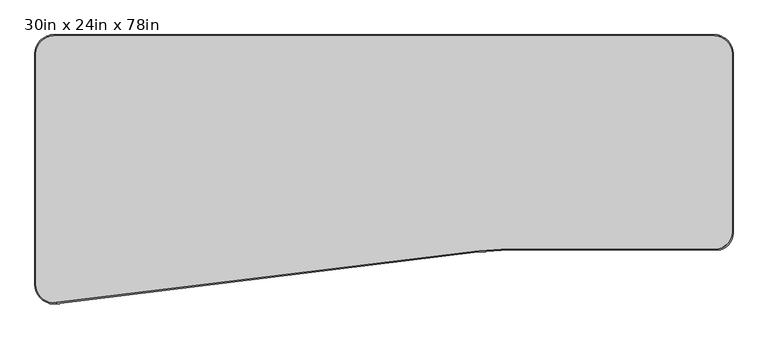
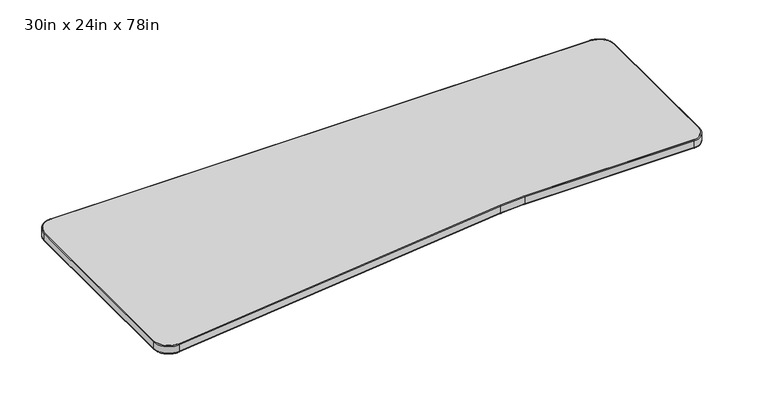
"""IFC4 building model written with IfcOpenShell, lengths in millimetres: furniture geometry, Steelcase - Answer Solution - Universal Table - Transition - Left : 30in x 24in x 78in."""

from ifc_helpers import new_model, si_unit, point, frame, frame_2d, origin, place, context, project, spatial, polyline, circle_curve, ellipse_curve, trimmed, segment, composite_curve, outline, extrude, source, transform, mapped, element, save
from ifc_brep_helpers import plane_surface, cylinder_surface, revolved_surface, advanced_brep


def furniture_30in_x_24in_x_78in_4ae13c03(model_context):
    return source(origin(), model_context, "Body", "SolidModel", [
        extrude(outline(composite_curve([segment(polyline([(53.8479244, -3.0479999), (1921.0019516, -3.0479999)]), True, "CONTINUOUS"), segment(trimmed(circle_curve(frame_2d((1921.0019516, -53.8479999)), 50.8), [point((1921.0019516, -3.0479999))], [point((1971.8019516, -53.8479999))], False, "CARTESIAN"), True, "CONTINUOUS"), segment(polyline([(1971.8019516, -53.8479999), (1971.8019516, -558.6676965)]), True, "CONTINUOUS"), segment(trimmed(circle_curve(frame_2d((1923.9176452, -558.6676965)), 47.8843065), [point((1971.8019516, -558.6676965))], [point((1923.9176452, -606.5520029))], False, "CARTESIAN"), True, "CONTINUOUS"), segment(polyline([(1923.9176452, -606.5520029), (1339.5747338, -606.5520029)]), True, "CONTINUOUS"), segment(trimmed(circle_curve(frame_2d((1339.5747338, -1293.7704002)), 687.2183973), [point((1339.5747338, -606.5520029))], [point((1256.0043966, -611.6522841))], True, "CARTESIAN"), True, "CONTINUOUS"), segment(polyline([(1256.0043966, -611.6522841), (60.025543, -758.1787488)]), True, "CONTINUOUS"), segment(trimmed(circle_curve(frame_2d((53.8479244, -707.7557677)), 50.8), [point((60.025543, -758.1787488))], [point((3.0479244, -707.7557677))], False, "CARTESIAN"), True, "CONTINUOUS"), segment(polyline([(3.0479244, -707.7557677), (3.0479244, -53.8479999)]), True, "CONTINUOUS"), segment(trimmed(circle_curve(frame_2d((53.8479244, -53.8479999)), 50.8), [point((3.0479244, -53.8479999))], [point((53.8479244, -3.0479999))], False, "CARTESIAN"), True, "CONTINUOUS")], self_intersect=False)), frame((0.0, 0.0, 668.274), z_axis=(0.0, 0.0, 1.0), x_axis=(1.0, 0.0, 0.0)), (0.0, 0.0, 1.0), 30.0481659),
        advanced_brep(
        [(-7.55e-05, -53.8479999, 671.3219999), (53.8479244, 0.0, 671.3219999), (53.8479244, -3.0479999, 668.274), (3.0479244, -53.8479999, 668.274), (-7.55e-05, -53.8479999, 695.274166), (53.8479244, 0.0, 695.274166), (3.0479244, -53.8479999, 698.3221659), (53.8479244, -3.0479999, 698.3221659), (3.0479244, -707.7557677, 668.274), (-7.55e-05, -707.7557677, 671.3219999), (-7.55e-05, -707.7557677, 695.274166), (3.0479244, -707.7557677, 698.3221659), (60.3962001, -761.2041276, 671.3219999), (60.025543, -758.1787488, 668.274), (60.3962001, -761.2041276, 695.274166), (60.025543, -758.1787488, 698.3221659), (1254.0804802, -611.8879945, 668.274), (1254.4511373, -614.9133733, 671.3219999), (1254.4511373, -614.9133733, 695.274166), (1254.0804802, -611.8879945, 698.3221659), (1341.5130356, -609.6000028, 671.3219999), (1341.5130356, -606.5520029, 668.274), (1341.5130356, -609.6000028, 695.274166), (1341.5130356, -606.5520029, 698.3221659), (1927.3519516, -606.5520029, 668.274), (1927.3519516, -609.6000028, 671.3219999), (1927.3519516, -609.6000028, 695.274166), (1927.3519516, -606.5520029, 698.3221659), (1974.8499516, -562.1020029, 671.3219999), (1971.8019516, -562.1020029, 668.274), (1974.8499516, -562.1020029, 695.274166), (1971.8019516, -562.1020029, 698.3221659), (1971.8019516, -53.8479999, 668.274), (1974.8499516, -53.8479999, 671.3219999), (1974.8499516, -53.8479999, 695.274166), (1971.8019516, -53.8479999, 698.3221659), (1921.0019516, 0.0, 671.3219999), (1921.0019516, -3.0479999, 668.274), (1921.0019516, 0.0, 695.274166), (1921.0019516, -3.0479999, 698.3221659)],
        [
            (0, 1, circle_curve(frame((53.8479244, -53.8479999, 671.3219999), z_axis=(0.0, 0.0, -1.0), x_axis=(0.0, 1.0, 0.0)), 53.8479999)),
            (1, 2, circle_curve(frame((53.8479244, -3.0479999, 671.3219999), z_axis=(-1.0, 0.0, 0.0), x_axis=(0.0, -1.0, 0.0)), 3.0479999)),
            (2, 3, circle_curve(frame((53.8479244, -53.8479999, 668.274), z_axis=(0.0, 0.0, 1.0), x_axis=(0.0, 1.0, 0.0)), 50.8)),
            (3, 0, circle_curve(frame((3.0479244, -53.8479999, 671.3219999), z_axis=(0.0, 1.0, 0.0), x_axis=(1.0, 0.0, 0.0)), 3.0479999)),
            (4, 5, circle_curve(frame((53.8479244, -53.8479999, 695.274166), z_axis=(0.0, 0.0, -1.0), x_axis=(0.0, 1.0, 0.0)), 53.8479999)),
            (5, 1),
            (0, 4),
            (6, 7, circle_curve(frame((53.8479244, -53.8479999, 698.3221659), z_axis=(0.0, 0.0, -1.0), x_axis=(0.0, 1.0, 0.0)), 50.8)),
            (7, 5, circle_curve(frame((53.8479244, -3.0479999, 695.274166), z_axis=(-1.0, 0.0, 0.0), x_axis=(0.0, -1.0, 0.0)), 3.0479999)),
            (4, 6, circle_curve(frame((3.0479244, -53.8479999, 695.274166), z_axis=(0.0, 1.0, 0.0), x_axis=(1.0, 0.0, 0.0)), 3.0479999)),
            (2, 7),
            (6, 3),
            (3, 8),
            (8, 9, circle_curve(frame((3.0479244, -707.7557677, 671.3219999), z_axis=(0.0, 1.0, 0.0), x_axis=(1.0, 0.0, 0.0)), 3.0479999)),
            (9, 0),
            (9, 10),
            (10, 4),
            (10, 11, circle_curve(frame((3.0479244, -707.7557677, 695.274166), z_axis=(0.0, 1.0, 0.0), x_axis=(1.0, 0.0, 0.0)), 3.0479999)),
            (11, 6),
            (11, 8),
            (12, 9, circle_curve(frame((53.8479244, -707.7557677, 671.3219999), z_axis=(0.0, 0.0, -1.0), x_axis=(-1.0, 0.0, 0.0)), 53.8479999)),
            (8, 13, circle_curve(frame((53.8479244, -707.7557677, 668.274), z_axis=(0.0, 0.0, 1.0), x_axis=(-1.0, 0.0, 0.0)), 50.8)),
            (13, 12, circle_curve(frame((60.025543, -758.1787488, 671.3219999), z_axis=(-0.9925783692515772, -0.12160666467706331, 0.0), x_axis=(-0.12160666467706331, 0.9925783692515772, 0.0)), 3.0479999)),
            (14, 10, circle_curve(frame((53.8479244, -707.7557677, 695.274166), z_axis=(0.0, 0.0, -1.0), x_axis=(-1.0, 0.0, 0.0)), 53.8479999)),
            (12, 14),
            (15, 11, circle_curve(frame((53.8479244, -707.7557677, 698.3221659), z_axis=(0.0, 0.0, -1.0), x_axis=(-1.0, 0.0, 0.0)), 50.8)),
            (14, 15, circle_curve(frame((60.025543, -758.1787488, 695.274166), z_axis=(-0.9925783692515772, -0.12160666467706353, 0.0), x_axis=(-0.12160666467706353, 0.9925783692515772, 0.0)), 3.0479999)),
            (15, 13),
            (13, 16),
            (16, 17, circle_curve(frame((1254.0804802, -611.8879945, 671.3219999), z_axis=(-0.9925783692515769, -0.1216066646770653, 0.0), x_axis=(-0.1216066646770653, 0.9925783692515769, 0.0)), 3.0479999)),
            (17, 12),
            (17, 18),
            (18, 14),
            (18, 19, circle_curve(frame((1254.0804802, -611.8879945, 695.274166), z_axis=(-0.9925783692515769, -0.1216066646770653, 0.0), x_axis=(-0.1216066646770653, 0.9925783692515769, 0.0)), 3.0479999)),
            (19, 15),
            (19, 16),
            (20, 17, circle_curve(frame((1341.5130356, -1325.5303219, 671.3219999), z_axis=(0.0, 0.0, 1.0), x_axis=(-0.12160666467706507, 0.9925783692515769, 0.0)), 715.9303191)),
            (16, 21, circle_curve(frame((1341.5130356, -1325.5303219, 668.274), z_axis=(0.0, 0.0, -1.0), x_axis=(-0.12160666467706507, 0.9925783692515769, 0.0)), 718.978319)),
            (21, 20, circle_curve(frame((1341.5130356, -606.5520029, 671.3219999), z_axis=(-0.9999999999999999, 0.0, 0.0), x_axis=(0.0, 0.9999999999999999, 0.0)), 3.0479999)),
            (22, 18, circle_curve(frame((1341.5130356, -1325.5303219, 695.274166), z_axis=(0.0, 0.0, 1.0), x_axis=(-0.12160666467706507, 0.9925783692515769, 0.0)), 715.9303191)),
            (20, 22),
            (23, 19, circle_curve(frame((1341.5130356, -1325.5303219, 698.3221659), z_axis=(0.0, 0.0, 1.0), x_axis=(-0.12160666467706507, 0.9925783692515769, 0.0)), 718.978319)),
            (22, 23, circle_curve(frame((1341.5130356, -606.5520029, 695.274166), z_axis=(-0.9999999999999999, 0.0, 0.0), x_axis=(0.0, 0.9999999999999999, 0.0)), 3.0479999)),
            (23, 21),
            (21, 24),
            (24, 25, circle_curve(frame((1927.3519516, -606.5520029, 671.3219999), z_axis=(-1.0, 0.0, 0.0), x_axis=(0.0, 1.0, 0.0)), 3.0479999)),
            (25, 20),
            (25, 26),
            (26, 22),
            (26, 27, circle_curve(frame((1927.3519516, -606.5520029, 695.274166), z_axis=(-1.0, 0.0, 0.0), x_axis=(0.0, 1.0, 0.0)), 3.0479999)),
            (27, 23),
            (27, 24),
            (28, 25, circle_curve(frame((1927.3519516, -562.1020029, 671.3219999), z_axis=(0.0, 0.0, -1.0), x_axis=(0.0, -1.0, 0.0)), 47.4979999)),
            (24, 29, circle_curve(frame((1927.3519516, -562.1020029, 668.274), z_axis=(0.0, 0.0, 1.0), x_axis=(0.0, -1.0, 0.0)), 44.45)),
            (29, 28, circle_curve(frame((1971.8019516, -562.1020029, 671.3219999), z_axis=(0.0, -1.0, 0.0), x_axis=(-1.0, 0.0, 0.0)), 3.0479999)),
            (30, 26, circle_curve(frame((1927.3519516, -562.1020029, 695.274166), z_axis=(0.0, 0.0, -1.0), x_axis=(0.0, -1.0, 0.0)), 47.4979999)),
            (28, 30),
            (31, 27, circle_curve(frame((1927.3519516, -562.1020029, 698.3221659), z_axis=(0.0, 0.0, -1.0), x_axis=(0.0, -1.0, 0.0)), 44.45)),
            (30, 31, circle_curve(frame((1971.8019516, -562.1020029, 695.274166), z_axis=(0.0, -1.0, 0.0), x_axis=(-1.0, 0.0, 0.0)), 3.0479999)),
            (31, 29),
            (29, 32),
            (32, 33, circle_curve(frame((1971.8019516, -53.8479999, 671.3219999), z_axis=(0.0, -1.0, 0.0), x_axis=(-1.0, 0.0, 0.0)), 3.0479999)),
            (33, 28),
            (33, 34),
            (34, 30),
            (34, 35, circle_curve(frame((1971.8019516, -53.8479999, 695.274166), z_axis=(0.0, -1.0, 0.0), x_axis=(-1.0, 0.0, 0.0)), 3.0479999)),
            (35, 31),
            (35, 32),
            (36, 33, circle_curve(frame((1921.0019516, -53.8479999, 671.3219999), z_axis=(0.0, 0.0, -1.0), x_axis=(1.0, 0.0, 0.0)), 53.8479999)),
            (32, 37, circle_curve(frame((1921.0019516, -53.8479999, 668.274), z_axis=(0.0, 0.0, 1.0), x_axis=(1.0, 0.0, 0.0)), 50.8)),
            (37, 36, circle_curve(frame((1921.0019516, -3.0479999, 671.3219999), z_axis=(1.0, 0.0, 0.0), x_axis=(0.0, -1.0, 0.0)), 3.0479999)),
            (38, 34, circle_curve(frame((1921.0019516, -53.8479999, 695.274166), z_axis=(0.0, 0.0, -1.0), x_axis=(1.0, 0.0, 0.0)), 53.8479999)),
            (36, 38),
            (39, 35, circle_curve(frame((1921.0019516, -53.8479999, 698.3221659), z_axis=(0.0, 0.0, -1.0), x_axis=(1.0, 0.0, 0.0)), 50.8)),
            (38, 39, circle_curve(frame((1921.0019516, -3.0479999, 695.274166), z_axis=(1.0, 0.0, 0.0), x_axis=(0.0, -1.0, 0.0)), 3.0479999)),
            (39, 37),
            (37, 2),
            (1, 36),
            (5, 38),
            (7, 39),
        ],
        [
            revolved_surface(trimmed(ellipse_curve(frame((53.8479244, -3.0479999, 671.3219999), z_axis=(1.0, 0.0, 0.0), x_axis=(0.0, -1.0, 0.0)), 3.0479999, 3.0479999), [point((53.8479244, -3.0479999, 668.274))], [point((53.8479244, 0.0, 671.3219999))], True, "CARTESIAN"), (53.8479244, -53.8479999, 0.0), (0.0, 0.0, 1.0)),
            cylinder_surface(frame((53.8479244, -53.8479999, 0.0), z_axis=(0.0, 0.0, 1.0), x_axis=(0.0, 1.0, 0.0)), 53.8479999),
            revolved_surface(trimmed(ellipse_curve(frame((53.8479244, -3.0479999, 695.274166), z_axis=(1.0, 0.0, 0.0), x_axis=(0.0, -1.0, 0.0)), 3.0479999, 3.0479999), [point((53.8479244, 0.0, 695.274166))], [point((53.8479244, -3.0479999, 698.3221659))], True, "CARTESIAN"), (53.8479244, -53.8479999, 0.0), (0.0, 0.0, 1.0)),
            revolved_surface(polyline([(53.8479244, -3.0479999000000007, 698.3221659), (53.8479244, -3.0479999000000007, 668.274)]), (53.8479244, -53.8479999, 0.0), (0.0, 0.0, 1.0)),
            cylinder_surface(frame((3.0479244, -53.8479999, 671.3219999), z_axis=(0.0, 1.0, 0.0), x_axis=(1.0, 0.0, 0.0)), 3.0479999),
            plane_surface(frame((-7.55e-05, -53.8479999, 671.3219999), z_axis=(-1.0, 0.0, 0.0), x_axis=(0.0, -1.0, 0.0))),
            cylinder_surface(frame((3.0479244, -53.8479999, 695.274166), z_axis=(0.0, 1.0, 0.0), x_axis=(1.0, 0.0, 0.0)), 3.0479999),
            plane_surface(frame((3.0479244, -53.8479999, 698.3221659), z_axis=(1.0, 0.0, 0.0), x_axis=(0.0, -1.0, 0.0))),
            revolved_surface(trimmed(ellipse_curve(frame((3.0479244, -707.7557677, 671.3219999), z_axis=(0.0, 1.0, 0.0), x_axis=(1.0, 0.0, 0.0)), 3.0479999, 3.0479999), [point((3.0479244, -707.7557677, 668.274))], [point((-7.55e-05, -707.7557677, 671.3219999))], True, "CARTESIAN"), (53.8479244, -707.7557677, 0.0), (0.0, 0.0, 1.0)),
            cylinder_surface(frame((53.8479244, -707.7557677, 0.0), z_axis=(0.0, 0.0, 1.0), x_axis=(-1.0, 0.0, 0.0)), 53.8479999),
            revolved_surface(trimmed(ellipse_curve(frame((3.0479244, -707.7557677, 695.274166), z_axis=(0.0, 1.0, 0.0), x_axis=(1.0, 0.0, 0.0)), 3.0479999, 3.0479999), [point((-7.55e-05, -707.7557677, 695.274166))], [point((3.0479244, -707.7557677, 698.3221659))], True, "CARTESIAN"), (53.8479244, -707.7557677, 0.0), (0.0, 0.0, 1.0)),
            revolved_surface(polyline([(3.0479243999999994, -707.7557677, 698.3221659), (3.0479243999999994, -707.7557677, 668.274)]), (53.8479244, -707.7557677, 0.0), (0.0, 0.0, 1.0)),
            cylinder_surface(frame((60.025543, -758.1787488, 671.3219999), z_axis=(-0.9925783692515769, -0.1216066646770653, 0.0), x_axis=(-0.1216066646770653, 0.9925783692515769, 0.0)), 3.0479999),
            plane_surface(frame((60.3962001, -761.2041276, 671.3219999), z_axis=(0.12160666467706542, -0.9925783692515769, 0.0), x_axis=(0.9925783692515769, 0.12160666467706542, 0.0))),
            cylinder_surface(frame((60.025543, -758.1787488, 695.274166), z_axis=(-0.9925783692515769, -0.1216066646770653, 0.0), x_axis=(-0.1216066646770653, 0.9925783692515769, 0.0)), 3.0479999),
            plane_surface(frame((60.025543, -758.1787488, 698.3221659), z_axis=(-0.12160666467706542, 0.9925783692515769, 0.0), x_axis=(0.9925783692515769, 0.12160666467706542, 0.0))),
            revolved_surface(trimmed(ellipse_curve(frame((1254.0804802, -611.8879945, 671.3219999), z_axis=(-0.9925783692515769, -0.12160666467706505, 0.0), x_axis=(-0.12160666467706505, 0.9925783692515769, 0.0)), 3.0479999, 3.0479999), [point((1254.0804802, -611.8879945, 668.274))], [point((1254.4511373, -614.9133733, 671.3219999))], True, "CARTESIAN"), (1341.5130356, -1325.5303219, 0.0), (0.0, 0.0, -1.0)),
            revolved_surface(polyline([(1254.451137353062, -614.9133732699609, 671.3219999), (1254.451137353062, -614.9133732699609, 695.274166)]), (1341.5130356, -1325.5303219, 0.0), (0.0, 0.0, -1.0)),
            revolved_surface(trimmed(ellipse_curve(frame((1254.0804802, -611.8879945, 695.274166), z_axis=(-0.9925783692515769, -0.12160666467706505, 0.0), x_axis=(-0.12160666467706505, 0.9925783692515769, 0.0)), 3.0479999, 3.0479999), [point((1254.4511373, -614.9133733, 695.274166))], [point((1254.0804802, -611.8879945, 698.3221659))], True, "CARTESIAN"), (1341.5130356, -1325.5303219, 0.0), (0.0, 0.0, -1.0)),
            cylinder_surface(frame((1341.5130356, -1325.5303219, 0.0), z_axis=(0.0, 0.0, -1.0), x_axis=(-0.12160666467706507, 0.9925783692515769, 0.0)), 718.978319),
            cylinder_surface(frame((1341.5130356, -606.5520029, 671.3219999), z_axis=(-1.0, 0.0, 0.0), x_axis=(0.0, 1.0, 0.0)), 3.0479999),
            plane_surface(frame((1341.5130356, -609.6000028, 671.3219999), z_axis=(0.0, -1.0, 0.0), x_axis=(1.0, 0.0, 0.0))),
            cylinder_surface(frame((1341.5130356, -606.5520029, 695.274166), z_axis=(-1.0, 0.0, 0.0), x_axis=(0.0, 1.0, 0.0)), 3.0479999),
            plane_surface(frame((1341.5130356, -606.5520029, 698.3221659), z_axis=(0.0, 1.0, 0.0), x_axis=(1.0, 0.0, 0.0))),
            revolved_surface(trimmed(ellipse_curve(frame((1927.3519516, -606.5520029, 671.3219999), z_axis=(-1.0, 0.0, 0.0), x_axis=(0.0, 1.0, 0.0)), 3.0479999, 3.0479999), [point((1927.3519516, -606.5520029, 668.274))], [point((1927.3519516, -609.6000028, 671.3219999))], True, "CARTESIAN"), (1927.3519516, -562.1020029, 0.0), (0.0, 0.0, 1.0)),
            cylinder_surface(frame((1927.3519516, -562.1020029, 0.0), z_axis=(0.0, 0.0, 1.0), x_axis=(0.0, -1.0, 0.0)), 47.4979999),
            revolved_surface(trimmed(ellipse_curve(frame((1927.3519516, -606.5520029, 695.274166), z_axis=(-1.0, 0.0, 0.0), x_axis=(0.0, 1.0, 0.0)), 3.0479999, 3.0479999), [point((1927.3519516, -609.6000028, 695.274166))], [point((1927.3519516, -606.5520029, 698.3221659))], True, "CARTESIAN"), (1927.3519516, -562.1020029, 0.0), (0.0, 0.0, 1.0)),
            revolved_surface(polyline([(1927.3519516, -606.5520029, 698.3221659), (1927.3519516, -606.5520029, 668.274)]), (1927.3519516, -562.1020029, 0.0), (0.0, 0.0, 1.0)),
            cylinder_surface(frame((1971.8019516, -562.1020029, 671.3219999), z_axis=(0.0, -1.0, 0.0), x_axis=(-1.0, 0.0, 0.0)), 3.0479999),
            plane_surface(frame((1974.8499516, -562.1020029, 671.3219999), z_axis=(1.0, 0.0, 0.0), x_axis=(0.0, 1.0, 0.0))),
            cylinder_surface(frame((1971.8019516, -562.1020029, 695.274166), z_axis=(0.0, -1.0, 0.0), x_axis=(-1.0, 0.0, 0.0)), 3.0479999),
            plane_surface(frame((1971.8019516, -562.1020029, 698.3221659), z_axis=(-1.0, 0.0, 0.0), x_axis=(0.0, 1.0, 0.0))),
            revolved_surface(trimmed(ellipse_curve(frame((1971.8019516, -53.8479999, 671.3219999), z_axis=(0.0, -1.0, 0.0), x_axis=(-1.0, 0.0, 0.0)), 3.0479999, 3.0479999), [point((1971.8019516, -53.8479999, 668.274))], [point((1974.8499516, -53.8479999, 671.3219999))], True, "CARTESIAN"), (1921.0019516, -53.8479999, 0.0), (0.0, 0.0, 1.0)),
            cylinder_surface(frame((1921.0019516, -53.8479999, 0.0), z_axis=(0.0, 0.0, 1.0), x_axis=(1.0, 0.0, 0.0)), 53.8479999),
            revolved_surface(trimmed(ellipse_curve(frame((1971.8019516, -53.8479999, 695.274166), z_axis=(0.0, -1.0, 0.0), x_axis=(-1.0, 0.0, 0.0)), 3.0479999, 3.0479999), [point((1974.8499516, -53.8479999, 695.274166))], [point((1971.8019516, -53.8479999, 698.3221659))], True, "CARTESIAN"), (1921.0019516, -53.8479999, 0.0), (0.0, 0.0, 1.0)),
            revolved_surface(polyline([(1971.8019516, -53.8479999, 698.3221659), (1971.8019516, -53.8479999, 668.274)]), (1921.0019516, -53.8479999, 0.0), (0.0, 0.0, 1.0)),
            cylinder_surface(frame((1921.0019516, -3.0479999, 671.3219999), z_axis=(1.0, 0.0, 0.0), x_axis=(0.0, -1.0, 0.0)), 3.0479999),
            plane_surface(frame((1921.0019516, 0.0, 671.3219999), z_axis=(0.0, 1.0, 0.0), x_axis=(-1.0, 0.0, 0.0))),
            cylinder_surface(frame((1921.0019516, -3.0479999, 695.274166), z_axis=(1.0, 0.0, 0.0), x_axis=(0.0, -1.0, 0.0)), 3.0479999),
            plane_surface(frame((1921.0019516, -3.0479999, 698.3221659), z_axis=(0.0, -1.0, 0.0), x_axis=(-1.0, 0.0, 0.0))),
        ],
        [
            (0, [[1, 2, 3, 4]]),
            (1, [[5, 6, -1, 7]]),
            (2, [[8, 9, -5, 10]]),
            (3, [[-3, 11, -8, 12]]),
            (4, [[-4, 13, 14, 15]]),
            (5, [[-7, -15, 16, 17]]),
            (6, [[-10, -17, 18, 19]]),
            (7, [[-12, -19, 20, -13]]),
            (8, [[21, -14, 22, 23]]),
            (9, [[24, -16, -21, 25]]),
            (10, [[26, -18, -24, 27]]),
            (11, [[-22, -20, -26, 28]]),
            (12, [[-23, 29, 30, 31]]),
            (13, [[-25, -31, 32, 33]]),
            (14, [[-27, -33, 34, 35]]),
            (15, [[-28, -35, 36, -29]]),
            (16, [[37, -30, 38, 39]]),
            (17, [[40, -32, -37, 41]]),
            (18, [[42, -34, -40, 43]]),
            (19, [[-38, -36, -42, 44]]),
            (20, [[-39, 45, 46, 47]]),
            (21, [[-41, -47, 48, 49]]),
            (22, [[-43, -49, 50, 51]]),
            (23, [[-44, -51, 52, -45]]),
            (24, [[53, -46, 54, 55]]),
            (25, [[56, -48, -53, 57]]),
            (26, [[58, -50, -56, 59]]),
            (27, [[-54, -52, -58, 60]]),
            (28, [[-55, 61, 62, 63]]),
            (29, [[-57, -63, 64, 65]]),
            (30, [[-59, -65, 66, 67]]),
            (31, [[-60, -67, 68, -61]]),
            (32, [[69, -62, 70, 71]]),
            (33, [[72, -64, -69, 73]]),
            (34, [[74, -66, -72, 75]]),
            (35, [[-70, -68, -74, 76]]),
            (36, [[-71, 77, -2, 78]]),
            (37, [[-73, -78, -6, 79]]),
            (38, [[-75, -79, -9, 80]]),
            (39, [[-76, -80, -11, -77]]),
        ],
    ),
    ])


if __name__ == "__main__":
    model = new_model("IFC4")
    model_context = context("Model", 3, world=origin())
    ifc_project = project(units=[si_unit("LENGTHUNIT", "METRE", prefix="MILLI")], contexts=[model_context])
    site = spatial("IfcSite", under=ifc_project)
    building = spatial("IfcBuilding", under=site)
    placement = place(None, origin())
    furniture_30in_x_24in_x_78in_shape = furniture_30in_x_24in_x_78in_4ae13c03(model_context)
    element("IfcFurniture", 1, ObjectType="Steelcase - Answer Solution - Universal Table - Transition - Left : 30in x 24in x 78in", at=placement, inside=building, context=model_context, shape_type="MappedRepresentation", body=[
        mapped(furniture_30in_x_24in_x_78in_shape, transform((0.0, 0.0, 0.0), x_axis=(1.0, 0.0, 0.0), y_axis=(0.0, 1.0, 0.0), z_axis=(0.0, 0.0, 1.0))),
    ])
    save(model, "model.ifc")
